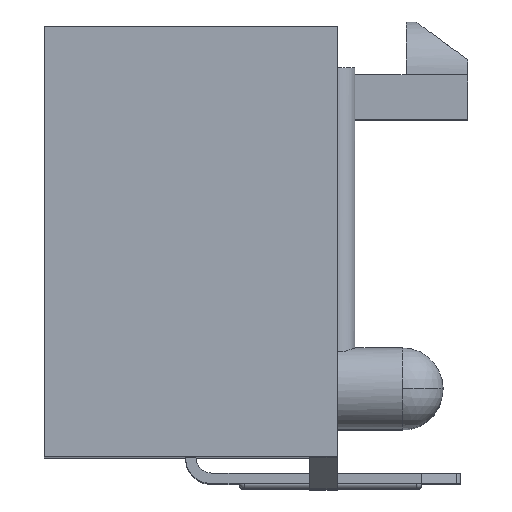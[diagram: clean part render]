
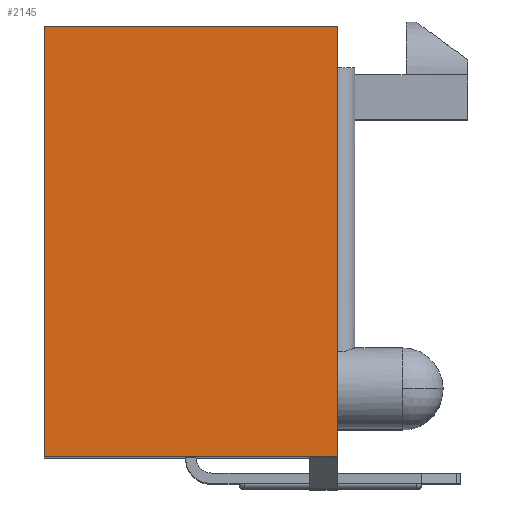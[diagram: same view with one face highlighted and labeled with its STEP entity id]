
A CAD part, top view. The second image highlights one B-rep face of the part: STEP entity #2145.
In plain terms, the highlighted planar face has unit normal (0, 0, 1).
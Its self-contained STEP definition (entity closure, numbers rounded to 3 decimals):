
#134 = VECTOR ( 'NONE', #328, 1000. ) ;
#229 = ORIENTED_EDGE ( 'NONE', *, *, #7600, .T. ) ;
#328 = DIRECTION ( 'NONE',  ( -1., 0., 0. ) ) ;
#378 = DIRECTION ( 'NONE',  ( 0., -1., 0. ) ) ;
#394 = EDGE_CURVE ( 'NONE', #1661, #2330, #6607, .T. ) ;
#517 = CARTESIAN_POINT ( 'NONE',  ( -3.646, 7.111, 11.75 ) ) ;
#1172 = CARTESIAN_POINT ( 'NONE',  ( -3.646, 7.111, 11.75 ) ) ;
#1185 = DIRECTION ( 'NONE',  ( 0., 1., 0. ) ) ;
#1290 = CARTESIAN_POINT ( 'NONE',  ( 0., 0., 11.75 ) ) ;
#1661 = VERTEX_POINT ( 'NONE', #7958 ) ;
#1814 = CARTESIAN_POINT ( 'NONE',  ( 4.654, 7.111, 11.75 ) ) ;
#1845 = PLANE ( 'NONE',  #8748 ) ;
#2145 = ADVANCED_FACE ( 'NONE', ( #2576 ), #1845, .T. ) ;
#2330 = VERTEX_POINT ( 'NONE', #7681 ) ;
#2380 = CARTESIAN_POINT ( 'NONE',  ( -3.646, -5.089, 11.75 ) ) ;
#2427 = CARTESIAN_POINT ( 'NONE',  ( 4.654, 7.111, 11.75 ) ) ;
#2576 = FACE_OUTER_BOUND ( 'NONE', #5577, .T. ) ;
#2645 = LINE ( 'NONE', #1172, #3382 ) ;
#2827 = ORIENTED_EDGE ( 'NONE', *, *, #6676, .T. ) ;
#3382 = VECTOR ( 'NONE', #6137, 1000. ) ;
#3620 = EDGE_CURVE ( 'NONE', #5444, #2330, #5391, .T. ) ;
#4374 = VERTEX_POINT ( 'NONE', #1814 ) ;
#4402 = ORIENTED_EDGE ( 'NONE', *, *, #3620, .T. ) ;
#4709 = LINE ( 'NONE', #2427, #8214 ) ;
#5391 = LINE ( 'NONE', #517, #8935 ) ;
#5415 = DIRECTION ( 'NONE',  ( 1., 0., 0. ) ) ;
#5444 = VERTEX_POINT ( 'NONE', #6540 ) ;
#5577 = EDGE_LOOP ( 'NONE', ( #6950, #2827, #229, #4402 ) ) ;
#6068 = DIRECTION ( 'NONE',  ( 0., 0., 1. ) ) ;
#6137 = DIRECTION ( 'NONE',  ( -1., 0., 0. ) ) ;
#6540 = CARTESIAN_POINT ( 'NONE',  ( -3.646, 7.111, 11.75 ) ) ;
#6607 = LINE ( 'NONE', #2380, #134 ) ;
#6676 = EDGE_CURVE ( 'NONE', #1661, #4374, #4709, .T. ) ;
#6950 = ORIENTED_EDGE ( 'NONE', *, *, #394, .F. ) ;
#7600 = EDGE_CURVE ( 'NONE', #4374, #5444, #2645, .T. ) ;
#7681 = CARTESIAN_POINT ( 'NONE',  ( -3.646, -5.089, 11.75 ) ) ;
#7958 = CARTESIAN_POINT ( 'NONE',  ( 4.654, -5.089, 11.75 ) ) ;
#8214 = VECTOR ( 'NONE', #1185, 1000. ) ;
#8748 = AXIS2_PLACEMENT_3D ( 'NONE', #1290, #6068, #5415 ) ;
#8935 = VECTOR ( 'NONE', #378, 1000. ) ;
